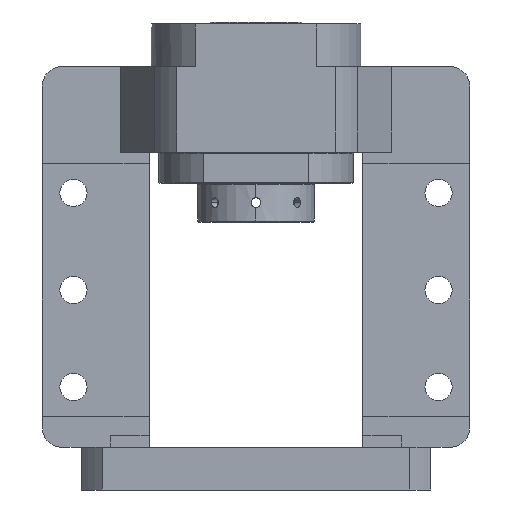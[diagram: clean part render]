
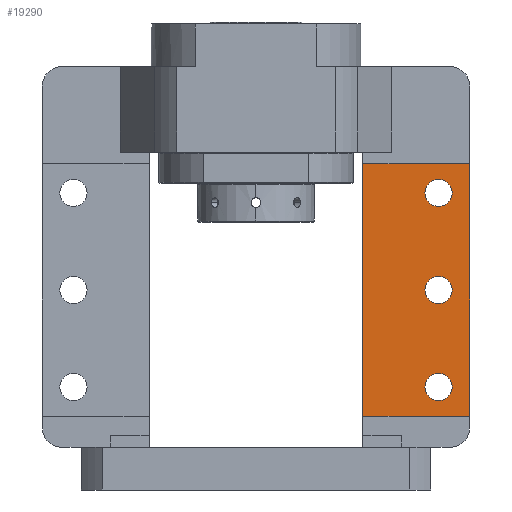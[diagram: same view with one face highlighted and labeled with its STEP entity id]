
A CAD part, front view. The second image highlights one B-rep face of the part: STEP entity #19290.
In plain terms, the highlighted planar face has unit normal (0, -1, 0).
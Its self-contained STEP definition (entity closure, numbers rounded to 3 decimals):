
#661 = AXIS2_PLACEMENT_3D ( 'NONE', #9319, #25563, #11652 ) ;
#953 = CARTESIAN_POINT ( 'NONE',  ( 94., 0., 110. ) ) ;
#1149 = EDGE_LOOP ( 'NONE', ( #9465, #16027 ) ) ;
#1204 = CARTESIAN_POINT ( 'NONE',  ( 110., 0., 168. ) ) ;
#1258 = DIRECTION ( 'NONE',  ( 0., 0., -1. ) ) ;
#1563 = CIRCLE ( 'NONE', #14253, 7. ) ;
#1880 = VECTOR ( 'NONE', #2184, 1000. ) ;
#2064 = VECTOR ( 'NONE', #17329, 1000. ) ;
#2184 = DIRECTION ( 'NONE',  ( 1., 0., 0. ) ) ;
#2258 = LINE ( 'NONE', #6272, #7803 ) ;
#3126 = EDGE_CURVE ( 'NONE', #11053, #27470, #8063, .T. ) ;
#4196 = ORIENTED_EDGE ( 'NONE', *, *, #3126, .T. ) ;
#4614 = ORIENTED_EDGE ( 'NONE', *, *, #24796, .F. ) ;
#4627 = PLANE ( 'NONE',  #661 ) ;
#4654 = EDGE_CURVE ( 'NONE', #18101, #7791, #16026, .T. ) ;
#5299 = CARTESIAN_POINT ( 'NONE',  ( 110., 0., 38. ) ) ;
#5766 = CARTESIAN_POINT ( 'NONE',  ( 94., 0., 160. ) ) ;
#6272 = CARTESIAN_POINT ( 'NONE',  ( 110., 0., 225. ) ) ;
#6560 = ORIENTED_EDGE ( 'NONE', *, *, #4654, .F. ) ;
#6695 = DIRECTION ( 'NONE',  ( 0., -1., 0. ) ) ;
#7576 = EDGE_CURVE ( 'NONE', #18086, #19182, #27560, .T. ) ;
#7791 = VERTEX_POINT ( 'NONE', #26779 ) ;
#7803 = VECTOR ( 'NONE', #20223, 1000. ) ;
#8063 = LINE ( 'NONE', #25341, #19713 ) ;
#8303 = VERTEX_POINT ( 'NONE', #5299 ) ;
#8529 = EDGE_CURVE ( 'NONE', #27470, #27833, #26147, .T. ) ;
#8754 = DIRECTION ( 'NONE',  ( 0., -1., 0. ) ) ;
#8846 = CARTESIAN_POINT ( 'NONE',  ( 94., 0., 60. ) ) ;
#9319 = CARTESIAN_POINT ( 'NONE',  ( 110., 0., 225. ) ) ;
#9351 = ORIENTED_EDGE ( 'NONE', *, *, #8529, .T. ) ;
#9410 = CARTESIAN_POINT ( 'NONE',  ( 94., 0., 103. ) ) ;
#9465 = ORIENTED_EDGE ( 'NONE', *, *, #17167, .F. ) ;
#9918 = FACE_OUTER_BOUND ( 'NONE', #11587, .T. ) ;
#10999 = ORIENTED_EDGE ( 'NONE', *, *, #20076, .F. ) ;
#11053 = VERTEX_POINT ( 'NONE', #1204 ) ;
#11587 = EDGE_LOOP ( 'NONE', ( #4614, #4196, #9351, #29235 ) ) ;
#11652 = DIRECTION ( 'NONE',  ( 0., 0., -1. ) ) ;
#11736 = CARTESIAN_POINT ( 'NONE',  ( 94., 0., 153. ) ) ;
#11746 = DIRECTION ( 'NONE',  ( 0., 0., -1. ) ) ;
#12000 = CARTESIAN_POINT ( 'NONE',  ( 94., 0., 53. ) ) ;
#12319 = EDGE_CURVE ( 'NONE', #17322, #12650, #18108, .T. ) ;
#12650 = VERTEX_POINT ( 'NONE', #12921 ) ;
#12759 = EDGE_LOOP ( 'NONE', ( #30018, #6560 ) ) ;
#12921 = CARTESIAN_POINT ( 'NONE',  ( 94., 0., 46. ) ) ;
#13615 = EDGE_LOOP ( 'NONE', ( #10999, #23650 ) ) ;
#13794 = CARTESIAN_POINT ( 'NONE',  ( 94., 0., 96. ) ) ;
#14081 = DIRECTION ( 'NONE',  ( 0., 0., -1. ) ) ;
#14253 = AXIS2_PLACEMENT_3D ( 'NONE', #29209, #15334, #1258 ) ;
#14328 = DIRECTION ( 'NONE',  ( 0., 0., -1. ) ) ;
#14348 = LINE ( 'NONE', #30098, #1880 ) ;
#15334 = DIRECTION ( 'NONE',  ( 0., -1., 0. ) ) ;
#16026 = CIRCLE ( 'NONE', #30088, 7. ) ;
#16027 = ORIENTED_EDGE ( 'NONE', *, *, #12319, .F. ) ;
#16120 = FACE_BOUND ( 'NONE', #13615, .T. ) ;
#17002 = AXIS2_PLACEMENT_3D ( 'NONE', #22689, #8754, #25012 ) ;
#17167 = EDGE_CURVE ( 'NONE', #12650, #17322, #18710, .T. ) ;
#17322 = VERTEX_POINT ( 'NONE', #8846 ) ;
#17329 = DIRECTION ( 'NONE',  ( 0., 0., -1. ) ) ;
#17398 = EDGE_CURVE ( 'NONE', #7791, #18101, #23422, .T. ) ;
#18086 = VERTEX_POINT ( 'NONE', #953 ) ;
#18101 = VERTEX_POINT ( 'NONE', #5766 ) ;
#18108 = CIRCLE ( 'NONE', #23173, 7. ) ;
#18710 = CIRCLE ( 'NONE', #17002, 7. ) ;
#19182 = VERTEX_POINT ( 'NONE', #13794 ) ;
#19290 = ADVANCED_FACE ( 'NONE', ( #28445, #22324, #16120, #9918 ), #4627, .T. ) ;
#19713 = VECTOR ( 'NONE', #29997, 1000. ) ;
#20076 = EDGE_CURVE ( 'NONE', #19182, #18086, #1563, .T. ) ;
#20223 = DIRECTION ( 'NONE',  ( 0., 0., -1. ) ) ;
#20641 = CARTESIAN_POINT ( 'NONE',  ( 94., 0., 153. ) ) ;
#22175 = EDGE_CURVE ( 'NONE', #27833, #8303, #14348, .T. ) ;
#22324 = FACE_BOUND ( 'NONE', #1149, .T. ) ;
#22689 = CARTESIAN_POINT ( 'NONE',  ( 94., 0., 53. ) ) ;
#22968 = DIRECTION ( 'NONE',  ( 0., 0., -1. ) ) ;
#23173 = AXIS2_PLACEMENT_3D ( 'NONE', #12000, #28232, #14328 ) ;
#23422 = CIRCLE ( 'NONE', #29428, 7. ) ;
#23650 = ORIENTED_EDGE ( 'NONE', *, *, #7576, .F. ) ;
#24463 = CARTESIAN_POINT ( 'NONE',  ( 55., 0., 168. ) ) ;
#24796 = EDGE_CURVE ( 'NONE', #11053, #8303, #2258, .T. ) ;
#25012 = DIRECTION ( 'NONE',  ( 0., 0., -1. ) ) ;
#25341 = CARTESIAN_POINT ( 'NONE',  ( 110., 0., 168. ) ) ;
#25563 = DIRECTION ( 'NONE',  ( 0., -1., 0. ) ) ;
#25658 = DIRECTION ( 'NONE',  ( 0., -1., 0. ) ) ;
#26147 = LINE ( 'NONE', #28974, #2064 ) ;
#26779 = CARTESIAN_POINT ( 'NONE',  ( 94., 0., 146. ) ) ;
#27470 = VERTEX_POINT ( 'NONE', #24463 ) ;
#27560 = CIRCLE ( 'NONE', #27763, 7. ) ;
#27763 = AXIS2_PLACEMENT_3D ( 'NONE', #9410, #25658, #11746 ) ;
#27833 = VERTEX_POINT ( 'NONE', #30287 ) ;
#27982 = DIRECTION ( 'NONE',  ( 0., -1., 0. ) ) ;
#28232 = DIRECTION ( 'NONE',  ( 0., -1., 0. ) ) ;
#28445 = FACE_BOUND ( 'NONE', #12759, .T. ) ;
#28974 = CARTESIAN_POINT ( 'NONE',  ( 55., 0., 225. ) ) ;
#29209 = CARTESIAN_POINT ( 'NONE',  ( 94., 0., 103. ) ) ;
#29235 = ORIENTED_EDGE ( 'NONE', *, *, #22175, .T. ) ;
#29428 = AXIS2_PLACEMENT_3D ( 'NONE', #20641, #6695, #22968 ) ;
#29997 = DIRECTION ( 'NONE',  ( -1., 0., 0. ) ) ;
#30018 = ORIENTED_EDGE ( 'NONE', *, *, #17398, .F. ) ;
#30088 = AXIS2_PLACEMENT_3D ( 'NONE', #11736, #27982, #14081 ) ;
#30098 = CARTESIAN_POINT ( 'NONE',  ( 110., 0., 38. ) ) ;
#30287 = CARTESIAN_POINT ( 'NONE',  ( 55., 0., 38. ) ) ;
